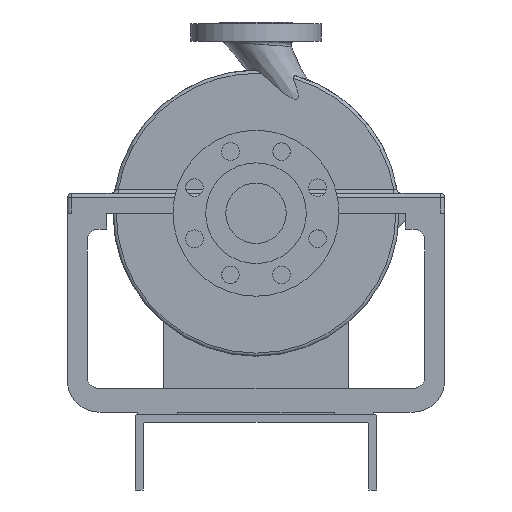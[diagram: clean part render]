
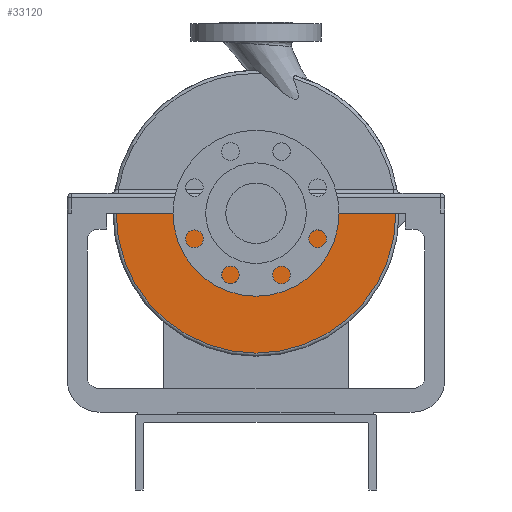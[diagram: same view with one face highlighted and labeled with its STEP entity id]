
A CAD part, front view. The second image highlights one B-rep face of the part: STEP entity #33120.
In plain terms, the highlighted planar face has unit normal (0, -1, 0).
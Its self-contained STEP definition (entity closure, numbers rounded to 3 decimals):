
#823=LINE('',#43691,#3102);
#829=LINE('',#43712,#3108);
#3102=VECTOR('',#36837,1000.);
#3108=VECTOR('',#36853,1000.);
#5454=ORIENTED_EDGE('',*,*,#12542,.T.);
#5455=ORIENTED_EDGE('',*,*,#12476,.F.);
#5456=ORIENTED_EDGE('',*,*,#12543,.T.);
#5457=ORIENTED_EDGE('',*,*,#12486,.F.);
#12476=EDGE_CURVE('',#16022,#16023,#823,.T.);
#12486=EDGE_CURVE('',#16032,#16033,#829,.T.);
#12542=EDGE_CURVE('',#16032,#16023,#18250,.T.);
#12543=EDGE_CURVE('',#16022,#16033,#18251,.F.);
#16022=VERTEX_POINT('',#43690);
#16023=VERTEX_POINT('',#43692);
#16032=VERTEX_POINT('',#43711);
#16033=VERTEX_POINT('',#43713);
#18250=CIRCLE('',#34600,176.5);
#18251=CIRCLE('',#34601,67.071);
#19167=EDGE_LOOP('',(#5454,#5455,#5456,#5457));
#20735=FACE_BOUND('',#19167,.T.);
#22264=PLANE('',#34599);
#33120=ADVANCED_FACE('',(#20735),#22264,.T.);
#34599=AXIS2_PLACEMENT_3D('',#44127,#36966,#36967);
#34600=AXIS2_PLACEMENT_3D('',#44128,#36968,#36969);
#34601=AXIS2_PLACEMENT_3D('',#44129,#36970,#36971);
#36837=DIRECTION('',(1.,0.,0.));
#36853=DIRECTION('',(1.,0.,0.));
#36966=DIRECTION('',(0.,-1.,0.));
#36967=DIRECTION('',(1.,0.,0.));
#36968=DIRECTION('',(0.,-1.,0.));
#36969=DIRECTION('',(1.,0.,0.));
#36970=DIRECTION('',(0.,-1.,0.));
#36971=DIRECTION('',(1.,0.,0.));
#43690=CARTESIAN_POINT('',(67.071,-28.,0.));
#43691=CARTESIAN_POINT('',(0.,-28.,0.));
#43692=CARTESIAN_POINT('',(176.5,-28.,0.));
#43711=CARTESIAN_POINT('',(-176.5,-28.,0.));
#43712=CARTESIAN_POINT('',(0.,-28.,0.));
#43713=CARTESIAN_POINT('',(-67.071,-28.,0.));
#44127=CARTESIAN_POINT('',(0.,-28.,65.));
#44128=CARTESIAN_POINT('',(0.,-28.,0.));
#44129=CARTESIAN_POINT('',(0.,-28.,0.));
